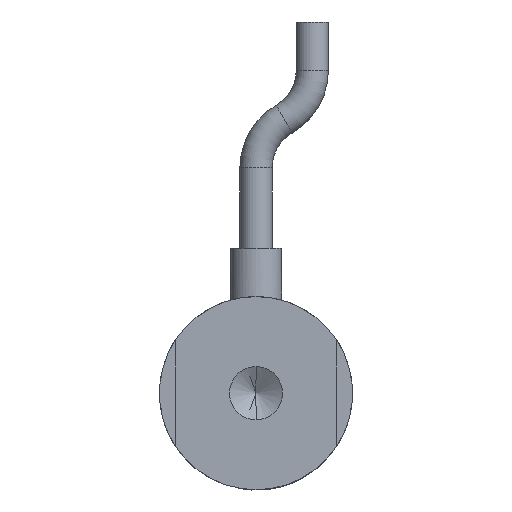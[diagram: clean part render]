
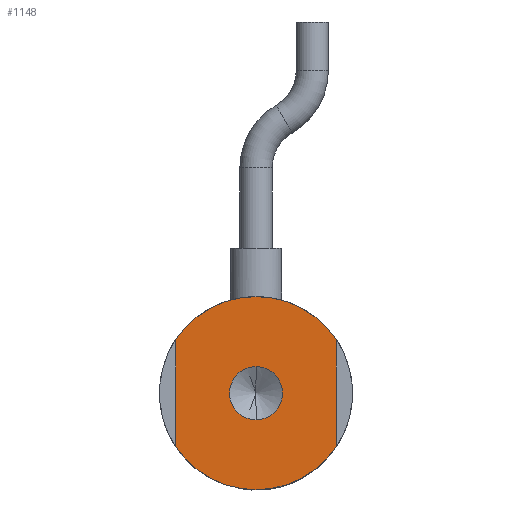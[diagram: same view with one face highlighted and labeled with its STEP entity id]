
A CAD part, front view. The second image highlights one B-rep face of the part: STEP entity #1148.
In plain terms, the highlighted planar face has unit normal (0, -1, 0).
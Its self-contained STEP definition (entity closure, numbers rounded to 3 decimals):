
#315 = CARTESIAN_POINT ( 'NONE',  ( 0., 0., 6. ) ) ;
#562 = DIRECTION ( 'NONE',  ( 0., 1., 0. ) ) ;
#879 = CARTESIAN_POINT ( 'NONE',  ( 5., 0., 0. ) ) ;
#1148 = ADVANCED_FACE ( 'NONE', ( #28745, #10818 ), #32938, .F. ) ;
#2147 = CARTESIAN_POINT ( 'NONE',  ( 0., 0., 0. ) ) ;
#2207 = VERTEX_POINT ( 'NONE', #18339 ) ;
#4318 = CARTESIAN_POINT ( 'NONE',  ( 0., 0., -6. ) ) ;
#4394 = DIRECTION ( 'NONE',  ( 0., 0., -1. ) ) ;
#5302 = CARTESIAN_POINT ( 'NONE',  ( -5., 0., 0. ) ) ;
#5577 = DIRECTION ( 'NONE',  ( 0., 0., 1. ) ) ;
#5636 = VECTOR ( 'NONE', #4394, 1000. ) ;
#5989 = AXIS2_PLACEMENT_3D ( 'NONE', #20894, #562, #24312 ) ;
#6388 = EDGE_LOOP ( 'NONE', ( #19570, #20618, #16264, #17031, #10781, #14263 ) ) ;
#8499 = ORIENTED_EDGE ( 'NONE', *, *, #15166, .F. ) ;
#10781 = ORIENTED_EDGE ( 'NONE', *, *, #42453, .F. ) ;
#10818 = FACE_OUTER_BOUND ( 'NONE', #6388, .T. ) ;
#12077 = LINE ( 'NONE', #5302, #31000 ) ;
#12212 = CARTESIAN_POINT ( 'NONE',  ( 0., 0., 0. ) ) ;
#13493 = EDGE_LOOP ( 'NONE', ( #15330, #8499 ) ) ;
#14097 = DIRECTION ( 'NONE',  ( 0., 1., 0. ) ) ;
#14117 = AXIS2_PLACEMENT_3D ( 'NONE', #33458, #32751, #32697 ) ;
#14263 = ORIENTED_EDGE ( 'NONE', *, *, #36251, .F. ) ;
#15166 = EDGE_CURVE ( 'NONE', #2207, #30446, #39902, .T. ) ;
#15330 = ORIENTED_EDGE ( 'NONE', *, *, #38454, .F. ) ;
#15546 = DIRECTION ( 'NONE',  ( 0., 0., -1. ) ) ;
#16264 = ORIENTED_EDGE ( 'NONE', *, *, #42908, .F. ) ;
#17031 = ORIENTED_EDGE ( 'NONE', *, *, #40505, .F. ) ;
#18339 = CARTESIAN_POINT ( 'NONE',  ( 0., 0., 1.65 ) ) ;
#19570 = ORIENTED_EDGE ( 'NONE', *, *, #38691, .F. ) ;
#19582 = CARTESIAN_POINT ( 'NONE',  ( 0., 0., 0. ) ) ;
#20316 = CARTESIAN_POINT ( 'NONE',  ( 0., 0., 0. ) ) ;
#20417 = CIRCLE ( 'NONE', #5989, 6. ) ;
#20502 = CARTESIAN_POINT ( 'NONE',  ( 0., 0., -1.65 ) ) ;
#20618 = ORIENTED_EDGE ( 'NONE', *, *, #23513, .F. ) ;
#20894 = CARTESIAN_POINT ( 'NONE',  ( 0., 0., 0. ) ) ;
#22261 = VERTEX_POINT ( 'NONE', #315 ) ;
#22876 = CARTESIAN_POINT ( 'NONE',  ( -5., 0., -3.317 ) ) ;
#22982 = DIRECTION ( 'NONE',  ( 0., 0., 1. ) ) ;
#23513 = EDGE_CURVE ( 'NONE', #37555, #29184, #20417, .T. ) ;
#23570 = CIRCLE ( 'NONE', #41789, 6. ) ;
#23741 = DIRECTION ( 'NONE',  ( 0., 0., -1. ) ) ;
#23963 = VERTEX_POINT ( 'NONE', #42053 ) ;
#24312 = DIRECTION ( 'NONE',  ( 0., 0., 1. ) ) ;
#25091 = CARTESIAN_POINT ( 'NONE',  ( -5., 0., 3.317 ) ) ;
#25367 = CARTESIAN_POINT ( 'NONE',  ( 5., 0., 3.317 ) ) ;
#25769 = DIRECTION ( 'NONE',  ( 0., 1., 0. ) ) ;
#28745 = FACE_BOUND ( 'NONE', #13493, .T. ) ;
#29184 = VERTEX_POINT ( 'NONE', #22876 ) ;
#29489 = VERTEX_POINT ( 'NONE', #25367 ) ;
#30446 = VERTEX_POINT ( 'NONE', #20502 ) ;
#31000 = VECTOR ( 'NONE', #32209, 1000. ) ;
#32209 = DIRECTION ( 'NONE',  ( 0., 0., 1. ) ) ;
#32697 = DIRECTION ( 'NONE',  ( 0., 0., 1. ) ) ;
#32751 = DIRECTION ( 'NONE',  ( 0., 1., 0. ) ) ;
#32938 = PLANE ( 'NONE',  #14117 ) ;
#33458 = CARTESIAN_POINT ( 'NONE',  ( 0., 0., 0. ) ) ;
#33898 = AXIS2_PLACEMENT_3D ( 'NONE', #34174, #14097, #37490 ) ;
#34174 = CARTESIAN_POINT ( 'NONE',  ( 0., 0., 0. ) ) ;
#35602 = DIRECTION ( 'NONE',  ( 0., -1., 0. ) ) ;
#36251 = EDGE_CURVE ( 'NONE', #40192, #22261, #37236, .T. ) ;
#36471 = AXIS2_PLACEMENT_3D ( 'NONE', #2147, #25769, #5577 ) ;
#37236 = CIRCLE ( 'NONE', #33898, 6. ) ;
#37490 = DIRECTION ( 'NONE',  ( 0., 0., 1. ) ) ;
#37555 = VERTEX_POINT ( 'NONE', #4318 ) ;
#38454 = EDGE_CURVE ( 'NONE', #30446, #2207, #40872, .T. ) ;
#38691 = EDGE_CURVE ( 'NONE', #29184, #40192, #12077, .T. ) ;
#39206 = LINE ( 'NONE', #879, #5636 ) ;
#39491 = AXIS2_PLACEMENT_3D ( 'NONE', #20316, #43714, #23741 ) ;
#39902 = CIRCLE ( 'NONE', #41140, 1.65 ) ;
#40192 = VERTEX_POINT ( 'NONE', #25091 ) ;
#40505 = EDGE_CURVE ( 'NONE', #29489, #23963, #39206, .T. ) ;
#40872 = CIRCLE ( 'NONE', #39491, 1.65 ) ;
#41140 = AXIS2_PLACEMENT_3D ( 'NONE', #12212, #35602, #15546 ) ;
#41789 = AXIS2_PLACEMENT_3D ( 'NONE', #19582, #42974, #22982 ) ;
#42053 = CARTESIAN_POINT ( 'NONE',  ( 5., 0., -3.317 ) ) ;
#42453 = EDGE_CURVE ( 'NONE', #22261, #29489, #23570, .T. ) ;
#42852 = CIRCLE ( 'NONE', #36471, 6. ) ;
#42908 = EDGE_CURVE ( 'NONE', #23963, #37555, #42852, .T. ) ;
#42974 = DIRECTION ( 'NONE',  ( 0., 1., 0. ) ) ;
#43714 = DIRECTION ( 'NONE',  ( 0., -1., 0. ) ) ;
